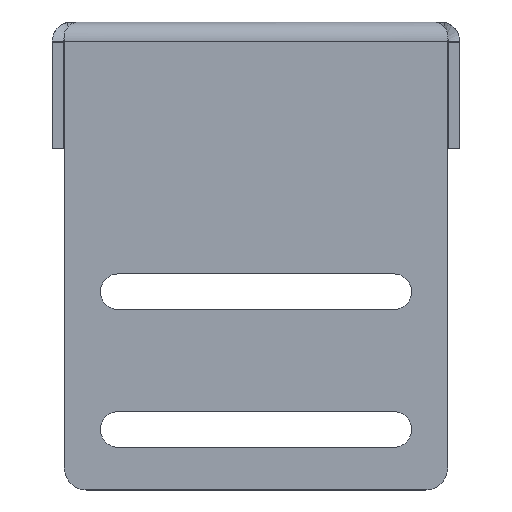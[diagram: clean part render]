
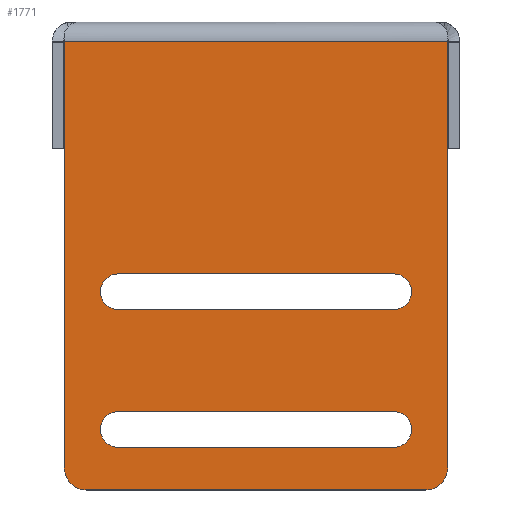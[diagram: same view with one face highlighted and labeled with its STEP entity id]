
A CAD part, left-side view. The second image highlights one B-rep face of the part: STEP entity #1771.
In plain terms, the highlighted planar face has unit normal (-1, 0, 0).
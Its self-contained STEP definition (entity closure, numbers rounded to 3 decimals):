
#65 = VECTOR ( 'NONE', #1351, 1000. ) ;
#99 = CARTESIAN_POINT ( 'NONE',  ( -50., -30.8, -69.5 ) ) ;
#231 = CIRCLE ( 'NONE', #1086, 3.25 ) ;
#247 = EDGE_CURVE ( 'NONE', #2218, #482, #418, .T. ) ;
#251 = CARTESIAN_POINT ( 'NONE',  ( -50., 25., -59.25 ) ) ;
#354 = EDGE_CURVE ( 'NONE', #1586, #492, #1882, .T. ) ;
#378 = FACE_OUTER_BOUND ( 'NONE', #646, .T. ) ;
#413 = VECTOR ( 'NONE', #4997, 1000. ) ;
#415 = ORIENTED_EDGE ( 'NONE', *, *, #3975, .T. ) ;
#418 = LINE ( 'NONE', #457, #3036 ) ;
#457 = CARTESIAN_POINT ( 'NONE',  ( -50., -25., -34.25 ) ) ;
#482 = VERTEX_POINT ( 'NONE', #1173 ) ;
#492 = VERTEX_POINT ( 'NONE', #4690 ) ;
#534 = CIRCLE ( 'NONE', #5820, 4. ) ;
#558 = CIRCLE ( 'NONE', #1695, 4. ) ;
#607 = EDGE_CURVE ( 'NONE', #5600, #6050, #2319, .T. ) ;
#622 = DIRECTION ( 'NONE',  ( -1., 0., 0. ) ) ;
#630 = DIRECTION ( 'NONE',  ( -1., 0., 0. ) ) ;
#646 = EDGE_LOOP ( 'NONE', ( #415, #814, #2801, #3609, #2232, #4022 ) ) ;
#814 = ORIENTED_EDGE ( 'NONE', *, *, #4363, .T. ) ;
#861 = CARTESIAN_POINT ( 'NONE',  ( -50., -34.8, 8. ) ) ;
#893 = CARTESIAN_POINT ( 'NONE',  ( -50., -25., -59.25 ) ) ;
#998 = EDGE_CURVE ( 'NONE', #2591, #1586, #6290, .T. ) ;
#1006 = DIRECTION ( 'NONE',  ( -1., 0., 0. ) ) ;
#1045 = LINE ( 'NONE', #2919, #3180 ) ;
#1054 = ORIENTED_EDGE ( 'NONE', *, *, #247, .F. ) ;
#1062 = CARTESIAN_POINT ( 'NONE',  ( -50., -25., -65.75 ) ) ;
#1086 = AXIS2_PLACEMENT_3D ( 'NONE', #3546, #3000, #2549 ) ;
#1099 = CARTESIAN_POINT ( 'NONE',  ( -50., 34.8, 8. ) ) ;
#1144 = EDGE_CURVE ( 'NONE', #2002, #2218, #3377, .T. ) ;
#1173 = CARTESIAN_POINT ( 'NONE',  ( -50., 25., -34.25 ) ) ;
#1204 = AXIS2_PLACEMENT_3D ( 'NONE', #6069, #2937, #3489 ) ;
#1351 = DIRECTION ( 'NONE',  ( 0., 1., 0. ) ) ;
#1469 = EDGE_CURVE ( 'NONE', #3210, #6050, #558, .T. ) ;
#1502 = CARTESIAN_POINT ( 'NONE',  ( -50., -30.8, -73.5 ) ) ;
#1586 = VERTEX_POINT ( 'NONE', #251 ) ;
#1599 = VECTOR ( 'NONE', #3371, 1000. ) ;
#1647 = EDGE_LOOP ( 'NONE', ( #2012, #2128, #6382, #4589 ) ) ;
#1660 = DIRECTION ( 'NONE',  ( 0., 0., 1. ) ) ;
#1695 = AXIS2_PLACEMENT_3D ( 'NONE', #99, #3545, #1660 ) ;
#1714 = CARTESIAN_POINT ( 'NONE',  ( -50., -34.8, 8. ) ) ;
#1771 = ADVANCED_FACE ( 'NONE', ( #378, #4794, #4375 ), #2360, .T. ) ;
#1854 = LINE ( 'NONE', #5407, #4003 ) ;
#1882 = CIRCLE ( 'NONE', #3325, 3.25 ) ;
#1936 = EDGE_CURVE ( 'NONE', #492, #5735, #1045, .T. ) ;
#2002 = VERTEX_POINT ( 'NONE', #6400 ) ;
#2012 = ORIENTED_EDGE ( 'NONE', *, *, #2313, .F. ) ;
#2044 = AXIS2_PLACEMENT_3D ( 'NONE', #5052, #630, #2612 ) ;
#2128 = ORIENTED_EDGE ( 'NONE', *, *, #1936, .F. ) ;
#2218 = VERTEX_POINT ( 'NONE', #2305 ) ;
#2227 = EDGE_CURVE ( 'NONE', #5178, #2002, #1854, .T. ) ;
#2232 = ORIENTED_EDGE ( 'NONE', *, *, #1469, .T. ) ;
#2305 = CARTESIAN_POINT ( 'NONE',  ( -50., -25., -34.25 ) ) ;
#2313 = EDGE_CURVE ( 'NONE', #5735, #2591, #2738, .T. ) ;
#2319 = LINE ( 'NONE', #1714, #4868 ) ;
#2360 = PLANE ( 'NONE',  #5151 ) ;
#2383 = CARTESIAN_POINT ( 'NONE',  ( -50., 30.8, -73.5 ) ) ;
#2385 = CARTESIAN_POINT ( 'NONE',  ( -50., 30.8, -69.5 ) ) ;
#2524 = VECTOR ( 'NONE', #3035, 1000. ) ;
#2549 = DIRECTION ( 'NONE',  ( 0., 0., 1. ) ) ;
#2582 = LINE ( 'NONE', #2970, #2524 ) ;
#2591 = VERTEX_POINT ( 'NONE', #893 ) ;
#2612 = DIRECTION ( 'NONE',  ( 0., 0., 1. ) ) ;
#2731 = EDGE_CURVE ( 'NONE', #482, #5178, #231, .T. ) ;
#2734 = CARTESIAN_POINT ( 'NONE',  ( -50., 25., -40.75 ) ) ;
#2738 = CIRCLE ( 'NONE', #1204, 3.25 ) ;
#2750 = CARTESIAN_POINT ( 'NONE',  ( -50., 33.5, -73.5 ) ) ;
#2779 = LINE ( 'NONE', #2750, #1599 ) ;
#2801 = ORIENTED_EDGE ( 'NONE', *, *, #6423, .T. ) ;
#2911 = LINE ( 'NONE', #3986, #413 ) ;
#2919 = CARTESIAN_POINT ( 'NONE',  ( -50., -25., -65.75 ) ) ;
#2923 = CARTESIAN_POINT ( 'NONE',  ( -50., -34.8, -69.5 ) ) ;
#2937 = DIRECTION ( 'NONE',  ( -1., 0., 0. ) ) ;
#2970 = CARTESIAN_POINT ( 'NONE',  ( -50., 34.8, 8. ) ) ;
#3000 = DIRECTION ( 'NONE',  ( -1., 0., 0. ) ) ;
#3022 = DIRECTION ( 'NONE',  ( 0., -1., 0. ) ) ;
#3029 = EDGE_CURVE ( 'NONE', #3210, #3852, #2779, .T. ) ;
#3035 = DIRECTION ( 'NONE',  ( 0., 0., -1. ) ) ;
#3036 = VECTOR ( 'NONE', #6408, 1000. ) ;
#3180 = VECTOR ( 'NONE', #3022, 1000. ) ;
#3210 = VERTEX_POINT ( 'NONE', #1502 ) ;
#3325 = AXIS2_PLACEMENT_3D ( 'NONE', #5133, #622, #6030 ) ;
#3371 = DIRECTION ( 'NONE',  ( 0., 1., 0. ) ) ;
#3377 = CIRCLE ( 'NONE', #2044, 3.25 ) ;
#3436 = DIRECTION ( 'NONE',  ( -1., 0., 0. ) ) ;
#3489 = DIRECTION ( 'NONE',  ( 0., 0., 1. ) ) ;
#3545 = DIRECTION ( 'NONE',  ( -1., 0., 0. ) ) ;
#3546 = CARTESIAN_POINT ( 'NONE',  ( -50., 25., -37.5 ) ) ;
#3609 = ORIENTED_EDGE ( 'NONE', *, *, #3029, .F. ) ;
#3716 = ORIENTED_EDGE ( 'NONE', *, *, #2227, .F. ) ;
#3852 = VERTEX_POINT ( 'NONE', #2383 ) ;
#3974 = VERTEX_POINT ( 'NONE', #4401 ) ;
#3975 = EDGE_CURVE ( 'NONE', #5600, #5425, #2911, .T. ) ;
#3986 = CARTESIAN_POINT ( 'NONE',  ( -50., 0., 8. ) ) ;
#4003 = VECTOR ( 'NONE', #4393, 1000. ) ;
#4022 = ORIENTED_EDGE ( 'NONE', *, *, #607, .F. ) ;
#4115 = ORIENTED_EDGE ( 'NONE', *, *, #2731, .F. ) ;
#4363 = EDGE_CURVE ( 'NONE', #5425, #3974, #2582, .T. ) ;
#4375 = FACE_BOUND ( 'NONE', #5631, .T. ) ;
#4393 = DIRECTION ( 'NONE',  ( 0., -1., 0. ) ) ;
#4401 = CARTESIAN_POINT ( 'NONE',  ( -50., 34.8, -69.5 ) ) ;
#4589 = ORIENTED_EDGE ( 'NONE', *, *, #998, .F. ) ;
#4690 = CARTESIAN_POINT ( 'NONE',  ( -50., 25., -65.75 ) ) ;
#4794 = FACE_BOUND ( 'NONE', #1647, .T. ) ;
#4868 = VECTOR ( 'NONE', #6298, 1000. ) ;
#4894 = DIRECTION ( 'NONE',  ( 0., 0., 1. ) ) ;
#4939 = CARTESIAN_POINT ( 'NONE',  ( -50., 0., 0. ) ) ;
#4997 = DIRECTION ( 'NONE',  ( 0., 1., 0. ) ) ;
#5052 = CARTESIAN_POINT ( 'NONE',  ( -50., -25., -37.5 ) ) ;
#5133 = CARTESIAN_POINT ( 'NONE',  ( -50., 25., -62.5 ) ) ;
#5151 = AXIS2_PLACEMENT_3D ( 'NONE', #4939, #3436, #6368 ) ;
#5178 = VERTEX_POINT ( 'NONE', #2734 ) ;
#5407 = CARTESIAN_POINT ( 'NONE',  ( -50., -25., -40.75 ) ) ;
#5425 = VERTEX_POINT ( 'NONE', #1099 ) ;
#5600 = VERTEX_POINT ( 'NONE', #861 ) ;
#5631 = EDGE_LOOP ( 'NONE', ( #5661, #3716, #4115, #1054 ) ) ;
#5661 = ORIENTED_EDGE ( 'NONE', *, *, #1144, .F. ) ;
#5735 = VERTEX_POINT ( 'NONE', #1062 ) ;
#5797 = CARTESIAN_POINT ( 'NONE',  ( -50., -25., -59.25 ) ) ;
#5820 = AXIS2_PLACEMENT_3D ( 'NONE', #2385, #1006, #4894 ) ;
#6030 = DIRECTION ( 'NONE',  ( 0., 0., 1. ) ) ;
#6050 = VERTEX_POINT ( 'NONE', #2923 ) ;
#6069 = CARTESIAN_POINT ( 'NONE',  ( -50., -25., -62.5 ) ) ;
#6290 = LINE ( 'NONE', #5797, #65 ) ;
#6298 = DIRECTION ( 'NONE',  ( 0., 0., -1. ) ) ;
#6368 = DIRECTION ( 'NONE',  ( 0., 0., 1. ) ) ;
#6382 = ORIENTED_EDGE ( 'NONE', *, *, #354, .F. ) ;
#6400 = CARTESIAN_POINT ( 'NONE',  ( -50., -25., -40.75 ) ) ;
#6408 = DIRECTION ( 'NONE',  ( 0., 1., 0. ) ) ;
#6423 = EDGE_CURVE ( 'NONE', #3974, #3852, #534, .T. ) ;
